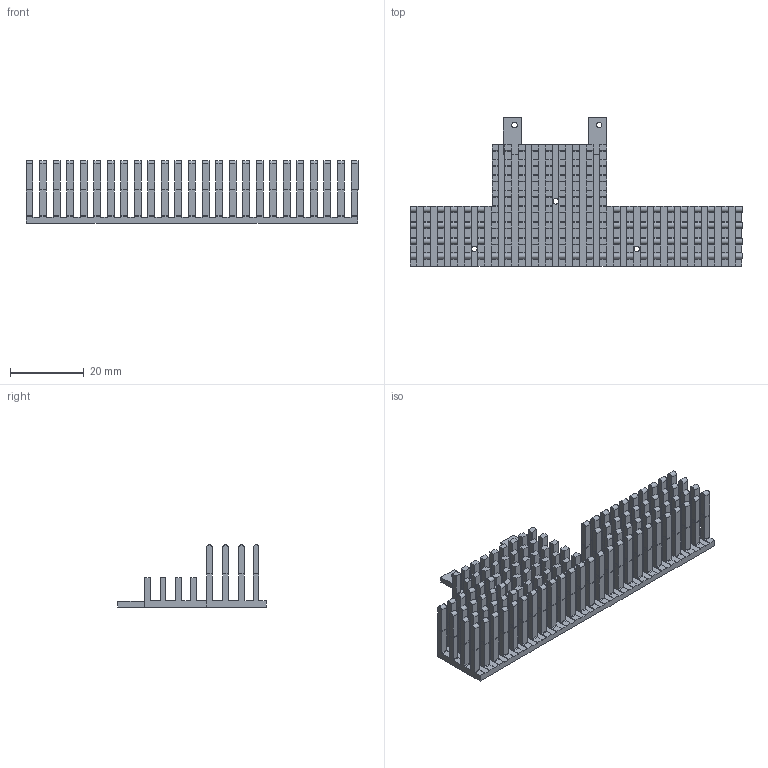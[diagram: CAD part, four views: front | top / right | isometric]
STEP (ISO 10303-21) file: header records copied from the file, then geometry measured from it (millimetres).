
FILE_DESCRIPTION(('FreeCAD Model'),'2;1');
FILE_NAME('Open CASCADE Shape Model','2024-11-30T23:11:06',(''),(''), 'Open CASCADE STEP processor 7.7','FreeCAD','Unknown');
FILE_SCHEMA(('AUTOMOTIVE_DESIGN { 1 0 10303 214 1 1 1 1 }'));
Length unit declared in the file: millimetre
Products named in the file (1): Heatsink+Fanspace+screwholes
Bounding box: 90.16 x 40.35 x 17 mm (x, y, z)
Volume: 7693.5 mm3; surface area: 14816.1 mm2
Topology: 1 solids, 1 shells, 1661 faces, 4252 edges, 2593 vertices
Faces by surface type: plane 1264, cylinder 397
Full cylindrical faces by diameter (mm): 1.5 x5
Entity records: 49166 total; most frequent: CARTESIAN_POINT 8507, ORIENTED_EDGE 8504, DIRECTION 8454, EDGE_CURVE 4252, LINE 3374, VECTOR 3374, VERTEX_POINT 2593, AXIS2_PLACEMENT_3D 2540
